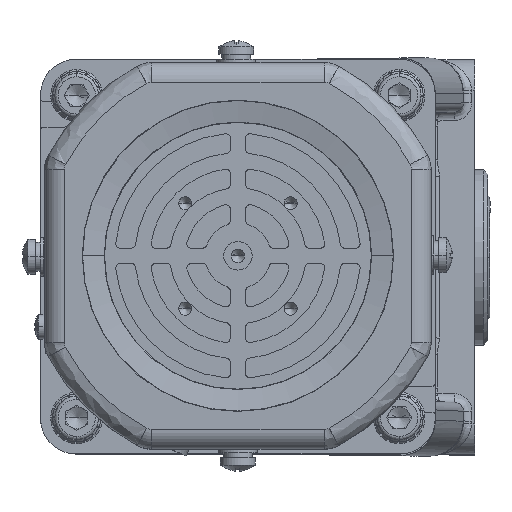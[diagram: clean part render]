
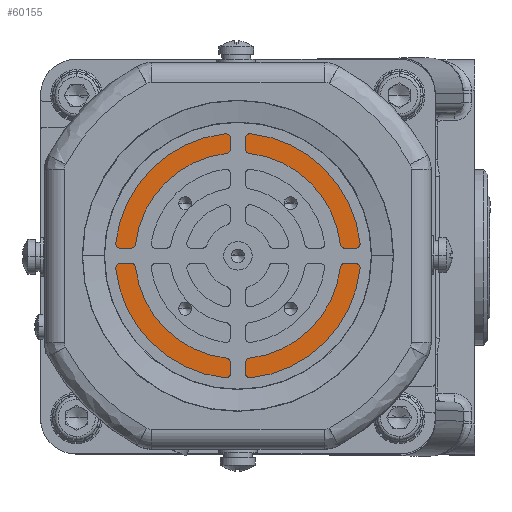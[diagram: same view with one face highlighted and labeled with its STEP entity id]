
A CAD part, top view. The second image highlights one B-rep face of the part: STEP entity #60155.
In plain terms, the highlighted planar face has unit normal (0, 0, 1) as drawn and (-1, 0, 0) by its records, which use the part's own axes.
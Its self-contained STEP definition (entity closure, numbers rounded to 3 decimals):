
#635 = VERTEX_POINT ( 'NONE', #78773 ) ;
#939 = EDGE_LOOP ( 'NONE', ( #38317, #49552 ) ) ;
#3233 = VERTEX_POINT ( 'NONE', #33150 ) ;
#3657 = VERTEX_POINT ( 'NONE', #18243 ) ;
#5241 = DIRECTION ( 'NONE',  ( 0., 0., 1. ) ) ;
#5373 = DIRECTION ( 'NONE',  ( -1., 0., 0. ) ) ;
#5465 = CARTESIAN_POINT ( 'NONE',  ( -71.097, 7.803, 162.808 ) ) ;
#5569 = EDGE_LOOP ( 'NONE', ( #32188, #35344 ) ) ;
#9475 = CARTESIAN_POINT ( 'NONE',  ( -71.097, 7.803, 188.308 ) ) ;
#10163 = CIRCLE ( 'NONE', #47185, 1.5 ) ;
#10563 = ORIENTED_EDGE ( 'NONE', *, *, #41467, .T. ) ;
#12133 = AXIS2_PLACEMENT_3D ( 'NONE', #70402, #28739, #77348 ) ;
#12986 = DIRECTION ( 'NONE',  ( 0., 0., 1. ) ) ;
#13004 = DIRECTION ( 'NONE',  ( 1., 0., 0. ) ) ;
#13107 = CARTESIAN_POINT ( 'NONE',  ( -71.097, 7.803, 162.808 ) ) ;
#14254 = ORIENTED_EDGE ( 'NONE', *, *, #56917, .T. ) ;
#14368 = AXIS2_PLACEMENT_3D ( 'NONE', #75615, #75413, #75397 ) ;
#14532 = DIRECTION ( 'NONE',  ( 0., 0., 1. ) ) ;
#14649 = DIRECTION ( 'NONE',  ( 1., 0., 0. ) ) ;
#14737 = CARTESIAN_POINT ( 'NONE',  ( -71.097, 7.803, 162.808 ) ) ;
#17992 = FACE_OUTER_BOUND ( 'NONE', #939, .T. ) ;
#18243 = CARTESIAN_POINT ( 'NONE',  ( -71.097, 7.803, 137.308 ) ) ;
#19898 = EDGE_CURVE ( 'NONE', #50229, #84129, #45931, .T. ) ;
#22466 = ORIENTED_EDGE ( 'NONE', *, *, #42531, .T. ) ;
#25918 = DIRECTION ( 'NONE',  ( 0., 0., 1. ) ) ;
#25938 = ORIENTED_EDGE ( 'NONE', *, *, #56366, .T. ) ;
#25943 = DIRECTION ( 'NONE',  ( 1., 0., 0. ) ) ;
#26049 = CARTESIAN_POINT ( 'NONE',  ( -71.097, 7.803, 189.808 ) ) ;
#28674 = FACE_BOUND ( 'NONE', #38168, .T. ) ;
#28739 = DIRECTION ( 'NONE',  ( -1., 0., 0. ) ) ;
#29651 = VERTEX_POINT ( 'NONE', #9475 ) ;
#30106 = CIRCLE ( 'NONE', #12133, 29. ) ;
#31119 = AXIS2_PLACEMENT_3D ( 'NONE', #13107, #13004, #12986 ) ;
#32188 = ORIENTED_EDGE ( 'NONE', *, *, #43452, .T. ) ;
#33150 = CARTESIAN_POINT ( 'NONE',  ( -71.097, 7.803, 191.308 ) ) ;
#35175 = AXIS2_PLACEMENT_3D ( 'NONE', #55641, #55089, #55030 ) ;
#35344 = ORIENTED_EDGE ( 'NONE', *, *, #55564, .T. ) ;
#37140 = VERTEX_POINT ( 'NONE', #64407 ) ;
#38168 = EDGE_LOOP ( 'NONE', ( #22466, #25938 ) ) ;
#38317 = ORIENTED_EDGE ( 'NONE', *, *, #19898, .T. ) ;
#41467 = EDGE_CURVE ( 'NONE', #3657, #635, #88849, .T. ) ;
#41595 = CARTESIAN_POINT ( 'NONE',  ( -71.097, 7.803, 184.808 ) ) ;
#42398 = DIRECTION ( 'NONE',  ( 0., 0., 1. ) ) ;
#42468 = DIRECTION ( 'NONE',  ( 1., 0., 0. ) ) ;
#42531 = EDGE_CURVE ( 'NONE', #49026, #37140, #76194, .T. ) ;
#42575 = CARTESIAN_POINT ( 'NONE',  ( -71.097, 7.803, 189.808 ) ) ;
#43452 = EDGE_CURVE ( 'NONE', #3233, #29651, #60103, .T. ) ;
#45931 = CIRCLE ( 'NONE', #55034, 29. ) ;
#47185 = AXIS2_PLACEMENT_3D ( 'NONE', #42575, #42468, #42398 ) ;
#49026 = VERTEX_POINT ( 'NONE', #41595 ) ;
#49552 = ORIENTED_EDGE ( 'NONE', *, *, #73134, .T. ) ;
#50229 = VERTEX_POINT ( 'NONE', #89108 ) ;
#55030 = DIRECTION ( 'NONE',  ( 0., 0., 1. ) ) ;
#55034 = AXIS2_PLACEMENT_3D ( 'NONE', #5465, #5373, #5241 ) ;
#55089 = DIRECTION ( 'NONE',  ( -1., 0., 0. ) ) ;
#55327 = PLANE ( 'NONE',  #35175 ) ;
#55564 = EDGE_CURVE ( 'NONE', #29651, #3233, #10163, .T. ) ;
#55641 = CARTESIAN_POINT ( 'NONE',  ( -71.097, 29.803, 162.808 ) ) ;
#56366 = EDGE_CURVE ( 'NONE', #37140, #49026, #73908, .T. ) ;
#56917 = EDGE_CURVE ( 'NONE', #635, #3657, #76026, .T. ) ;
#60103 = CIRCLE ( 'NONE', #66119, 1.5 ) ;
#60155 = ADVANCED_FACE ( 'NONE', ( #84509, #28674, #71687, #17992 ), #55327, .T. ) ;
#64407 = CARTESIAN_POINT ( 'NONE',  ( -71.097, 7.803, 140.808 ) ) ;
#65115 = CARTESIAN_POINT ( 'NONE',  ( -71.097, 7.803, 133.808 ) ) ;
#66119 = AXIS2_PLACEMENT_3D ( 'NONE', #26049, #25943, #25918 ) ;
#70402 = CARTESIAN_POINT ( 'NONE',  ( -71.097, 7.803, 162.808 ) ) ;
#71687 = FACE_BOUND ( 'NONE', #5569, .T. ) ;
#73134 = EDGE_CURVE ( 'NONE', #84129, #50229, #30106, .T. ) ;
#73908 = CIRCLE ( 'NONE', #31119, 22. ) ;
#75397 = DIRECTION ( 'NONE',  ( 0., 0., 1. ) ) ;
#75413 = DIRECTION ( 'NONE',  ( 1., 0., 0. ) ) ;
#75615 = CARTESIAN_POINT ( 'NONE',  ( -71.097, 7.803, 135.808 ) ) ;
#76026 = CIRCLE ( 'NONE', #14368, 1.5 ) ;
#76194 = CIRCLE ( 'NONE', #77165, 22. ) ;
#77165 = AXIS2_PLACEMENT_3D ( 'NONE', #14737, #14649, #14532 ) ;
#77348 = DIRECTION ( 'NONE',  ( 0., 0., 1. ) ) ;
#78773 = CARTESIAN_POINT ( 'NONE',  ( -71.097, 7.803, 134.308 ) ) ;
#84129 = VERTEX_POINT ( 'NONE', #65115 ) ;
#84509 = FACE_BOUND ( 'NONE', #87349, .T. ) ;
#84904 = DIRECTION ( 'NONE',  ( 0., 0., 1. ) ) ;
#85003 = DIRECTION ( 'NONE',  ( 1., 0., 0. ) ) ;
#85278 = CARTESIAN_POINT ( 'NONE',  ( -71.097, 7.803, 135.808 ) ) ;
#87349 = EDGE_LOOP ( 'NONE', ( #10563, #14254 ) ) ;
#88849 = CIRCLE ( 'NONE', #89065, 1.5 ) ;
#89065 = AXIS2_PLACEMENT_3D ( 'NONE', #85278, #85003, #84904 ) ;
#89108 = CARTESIAN_POINT ( 'NONE',  ( -71.097, 7.803, 191.808 ) ) ;
